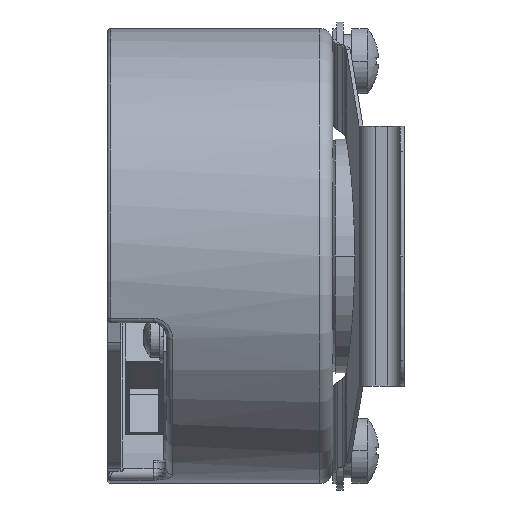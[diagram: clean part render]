
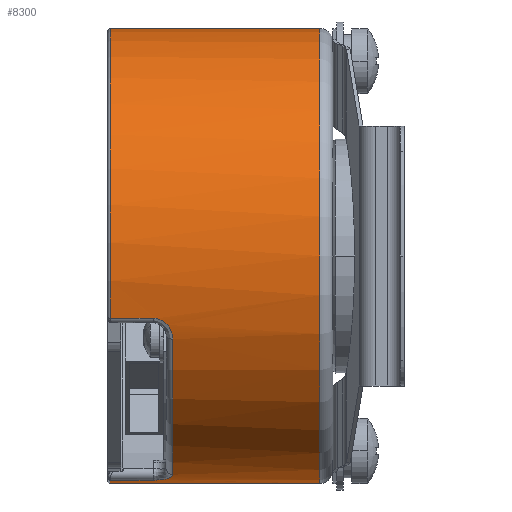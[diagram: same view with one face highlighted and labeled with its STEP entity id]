
A CAD part, left-side view. The second image highlights one B-rep face of the part: STEP entity #8300.
In plain terms, the highlighted cylindrical face has radius 17.5 mm (diameter 35 mm), a partial arc.
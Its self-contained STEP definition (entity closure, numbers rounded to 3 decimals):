
#201 = CARTESIAN_POINT ( 'NONE',  ( 0., -23., 0. ) ) ;
#307 = ORIENTED_EDGE ( 'NONE', *, *, #1020, .T. ) ;
#490 = LINE ( 'NONE', #2923, #9713 ) ;
#637 = AXIS2_PLACEMENT_3D ( 'NONE', #6826, #9104, #1539 ) ;
#666 = DIRECTION ( 'NONE',  ( 0., -1., 0. ) ) ;
#774 = DIRECTION ( 'NONE',  ( 0., 0., 1. ) ) ;
#806 = VERTEX_POINT ( 'NONE', #13082 ) ;
#1020 = EDGE_CURVE ( 'NONE', #4862, #8642, #10966, .T. ) ;
#1086 = CARTESIAN_POINT ( 'NONE',  ( -4.408, -11.667, -16.937 ) ) ;
#1169 = CARTESIAN_POINT ( 'NONE',  ( -3.015, -10.311, -17.238 ) ) ;
#1300 = VERTEX_POINT ( 'NONE', #1513 ) ;
#1364 = AXIS2_PLACEMENT_3D ( 'NONE', #7103, #666, #11405 ) ;
#1500 = CARTESIAN_POINT ( 'NONE',  ( -3.015, -24., -17.238 ) ) ;
#1513 = CARTESIAN_POINT ( 'NONE',  ( -16.832, -10.2, -4.788 ) ) ;
#1539 = DIRECTION ( 'NONE',  ( 0., 0., 1. ) ) ;
#1668 = ORIENTED_EDGE ( 'NONE', *, *, #8636, .T. ) ;
#1669 = CARTESIAN_POINT ( 'NONE',  ( 0., -24., -17.5 ) ) ;
#1803 = DIRECTION ( 'NONE',  ( 0., -1., 0. ) ) ;
#1805 = CARTESIAN_POINT ( 'NONE',  ( -16.439, -11.665, -6.005 ) ) ;
#2299 = ORIENTED_EDGE ( 'NONE', *, *, #11440, .T. ) ;
#2834 = CARTESIAN_POINT ( 'NONE',  ( -16.702, -11.222, -5.226 ) ) ;
#2923 = CARTESIAN_POINT ( 'NONE',  ( 0., -24., 17.5 ) ) ;
#2986 = CARTESIAN_POINT ( 'NONE',  ( -16.29, -11.7, -6.394 ) ) ;
#3045 = CIRCLE ( 'NONE', #1364, 17.5 ) ;
#3238 = CARTESIAN_POINT ( 'NONE',  ( -3.134, -10.734, -17.217 ) ) ;
#3289 = CARTESIAN_POINT ( 'NONE',  ( -3.015, -10.2, -17.238 ) ) ;
#3920 = AXIS2_PLACEMENT_3D ( 'NONE', #201, #8734, #6490 ) ;
#3984 = CARTESIAN_POINT ( 'NONE',  ( -16.829, -10.412, -4.801 ) ) ;
#4042 = ORIENTED_EDGE ( 'NONE', *, *, #8235, .T. ) ;
#4095 = ORIENTED_EDGE ( 'NONE', *, *, #8863, .T. ) ;
#4315 = ORIENTED_EDGE ( 'NONE', *, *, #6706, .F. ) ;
#4381 = CARTESIAN_POINT ( 'NONE',  ( -4.617, -11.7, -16.881 ) ) ;
#4425 = CARTESIAN_POINT ( 'NONE',  ( -3.999, -11.536, -17.038 ) ) ;
#4862 = VERTEX_POINT ( 'NONE', #8783 ) ;
#4921 = VECTOR ( 'NONE', #12641, 1000. ) ;
#4973 = CARTESIAN_POINT ( 'NONE',  ( -16.762, -10.987, -5.03 ) ) ;
#5024 = CARTESIAN_POINT ( 'NONE',  ( -16.571, -11.525, -5.63 ) ) ;
#5079 = VERTEX_POINT ( 'NONE', #7051 ) ;
#5154 = DIRECTION ( 'NONE',  ( 0., -1., 0. ) ) ;
#5520 = CARTESIAN_POINT ( 'NONE',  ( -3.03, -10.42, -17.236 ) ) ;
#5526 = DIRECTION ( 'NONE',  ( 0., -1., 0. ) ) ;
#5929 = ORIENTED_EDGE ( 'NONE', *, *, #6296, .T. ) ;
#5974 = CARTESIAN_POINT ( 'NONE',  ( -16.832, -10.306, -4.788 ) ) ;
#6053 = VERTEX_POINT ( 'NONE', #8772 ) ;
#6296 = EDGE_CURVE ( 'NONE', #1300, #6617, #10333, .T. ) ;
#6490 = DIRECTION ( 'NONE',  ( 0., 0., -1. ) ) ;
#6557 = CARTESIAN_POINT ( 'NONE',  ( 0., -24., 0. ) ) ;
#6591 = CARTESIAN_POINT ( 'NONE',  ( -3.459, -11.173, -17.155 ) ) ;
#6595 = CIRCLE ( 'NONE', #3920, 17.5 ) ;
#6617 = VERTEX_POINT ( 'NONE', #2986 ) ;
#6706 = EDGE_CURVE ( 'NONE', #10321, #5079, #490, .T. ) ;
#6778 = VECTOR ( 'NONE', #11541, 1000. ) ;
#6826 = CARTESIAN_POINT ( 'NONE',  ( 0., -11.7, 0. ) ) ;
#6948 = VERTEX_POINT ( 'NONE', #10697 ) ;
#7051 = CARTESIAN_POINT ( 'NONE',  ( 0., -23., 17.5 ) ) ;
#7103 = CARTESIAN_POINT ( 'NONE',  ( 0., -6.9, 0. ) ) ;
#7119 = B_SPLINE_CURVE_WITH_KNOTS ( 'NONE', 3,
 ( #10727, #4381, #1086, #4425, #10820, #11913, #6591, #11068, #9726, #3238, #13188, #5520, #1169, #3289 ),
 .UNSPECIFIED., .F., .F.,
 ( 4, 2, 2, 2, 2, 2, 4 ),
 ( 0., 0.001, 0.001, 0.002, 0.002, 0.002, 0.003 ),
 .UNSPECIFIED. ) ;
#7174 = CARTESIAN_POINT ( 'NONE',  ( -16.832, -10.2, -4.788 ) ) ;
#7194 = CARTESIAN_POINT ( 'NONE',  ( 0., -23., -17.5 ) ) ;
#7593 = EDGE_CURVE ( 'NONE', #6617, #6053, #13293, .T. ) ;
#7780 = LINE ( 'NONE', #8478, #4921 ) ;
#8128 = CARTESIAN_POINT ( 'NONE',  ( -16.723, -11.148, -5.156 ) ) ;
#8217 = CARTESIAN_POINT ( 'NONE',  ( -16.815, -10.614, -4.849 ) ) ;
#8235 = EDGE_CURVE ( 'NONE', #6948, #1300, #7780, .T. ) ;
#8260 = DIRECTION ( 'NONE',  ( 0., -1., 0. ) ) ;
#8261 = CARTESIAN_POINT ( 'NONE',  ( -16.778, -10.898, -4.974 ) ) ;
#8300 = ADVANCED_FACE ( 'NONE', ( #13423 ), #10430, .T. ) ;
#8478 = CARTESIAN_POINT ( 'NONE',  ( -16.832, -24., -4.788 ) ) ;
#8636 = EDGE_CURVE ( 'NONE', #8922, #806, #12768, .T. ) ;
#8642 = VERTEX_POINT ( 'NONE', #7194 ) ;
#8699 = EDGE_CURVE ( 'NONE', #806, #4862, #3045, .T. ) ;
#8734 = DIRECTION ( 'NONE',  ( 0., 1., 0. ) ) ;
#8760 = AXIS2_PLACEMENT_3D ( 'NONE', #6557, #5526, #11839 ) ;
#8772 = CARTESIAN_POINT ( 'NONE',  ( -4.83, -11.7, -16.82 ) ) ;
#8783 = CARTESIAN_POINT ( 'NONE',  ( 0., -6.9, -17.5 ) ) ;
#8863 = EDGE_CURVE ( 'NONE', #8642, #5079, #6595, .T. ) ;
#8922 = VERTEX_POINT ( 'NONE', #12807 ) ;
#9101 = EDGE_CURVE ( 'NONE', #6053, #8922, #7119, .T. ) ;
#9104 = DIRECTION ( 'NONE',  ( 0., -1., 0. ) ) ;
#9234 = CARTESIAN_POINT ( 'NONE',  ( -16.805, -10.711, -4.884 ) ) ;
#9322 = CARTESIAN_POINT ( 'NONE',  ( -16.367, -11.7, -6.197 ) ) ;
#9361 = CARTESIAN_POINT ( 'NONE',  ( 0., -6.9, 0. ) ) ;
#9636 = VECTOR ( 'NONE', #8260, 1000. ) ;
#9713 = VECTOR ( 'NONE', #1803, 1000. ) ;
#9726 = CARTESIAN_POINT ( 'NONE',  ( -3.244, -10.923, -17.197 ) ) ;
#10321 = VERTEX_POINT ( 'NONE', #11872 ) ;
#10333 = B_SPLINE_CURVE_WITH_KNOTS ( 'NONE', 3,
 ( #7174, #5974, #3984, #8217, #9234, #8261, #4973, #8128, #2834, #10348, #5024, #1805, #9322, #10393 ),
 .UNSPECIFIED., .F., .F.,
 ( 4, 2, 2, 2, 2, 2, 4 ),
 ( 0., 0., 0.001, 0.001, 0.001, 0.002, 0.003 ),
 .UNSPECIFIED. ) ;
#10348 = CARTESIAN_POINT ( 'NONE',  ( -16.628, -11.423, -5.456 ) ) ;
#10393 = CARTESIAN_POINT ( 'NONE',  ( -16.29, -11.7, -6.394 ) ) ;
#10430 = CYLINDRICAL_SURFACE ( 'NONE', #8760, 17.5 ) ;
#10697 = CARTESIAN_POINT ( 'NONE',  ( -16.832, -6.9, -4.788 ) ) ;
#10727 = CARTESIAN_POINT ( 'NONE',  ( -4.83, -11.7, -16.82 ) ) ;
#10798 = CIRCLE ( 'NONE', #12489, 17.5 ) ;
#10820 = CARTESIAN_POINT ( 'NONE',  ( -3.804, -11.44, -17.083 ) ) ;
#10919 = ORIENTED_EDGE ( 'NONE', *, *, #9101, .T. ) ;
#10966 = LINE ( 'NONE', #1669, #9636 ) ;
#10977 = ORIENTED_EDGE ( 'NONE', *, *, #8699, .T. ) ;
#11068 = CARTESIAN_POINT ( 'NONE',  ( -3.311, -11.012, -17.184 ) ) ;
#11405 = DIRECTION ( 'NONE',  ( 0., 0., 1. ) ) ;
#11440 = EDGE_CURVE ( 'NONE', #10321, #6948, #10798, .T. ) ;
#11541 = DIRECTION ( 'NONE',  ( 0., 1., 0. ) ) ;
#11575 = EDGE_LOOP ( 'NONE', ( #4315, #2299, #4042, #5929, #12766, #10919, #1668, #10977, #307, #4095 ) ) ;
#11839 = DIRECTION ( 'NONE',  ( 0., 0., -1. ) ) ;
#11872 = CARTESIAN_POINT ( 'NONE',  ( 0., -6.9, 17.5 ) ) ;
#11913 = CARTESIAN_POINT ( 'NONE',  ( -3.54, -11.245, -17.138 ) ) ;
#12489 = AXIS2_PLACEMENT_3D ( 'NONE', #9361, #5154, #774 ) ;
#12641 = DIRECTION ( 'NONE',  ( 0., -1., 0. ) ) ;
#12766 = ORIENTED_EDGE ( 'NONE', *, *, #7593, .T. ) ;
#12768 = LINE ( 'NONE', #1500, #6778 ) ;
#12807 = CARTESIAN_POINT ( 'NONE',  ( -3.015, -10.2, -17.238 ) ) ;
#13082 = CARTESIAN_POINT ( 'NONE',  ( -3.015, -6.9, -17.238 ) ) ;
#13188 = CARTESIAN_POINT ( 'NONE',  ( -3.09, -10.631, -17.225 ) ) ;
#13293 = CIRCLE ( 'NONE', #637, 17.5 ) ;
#13423 = FACE_OUTER_BOUND ( 'NONE', #11575, .T. ) ;
